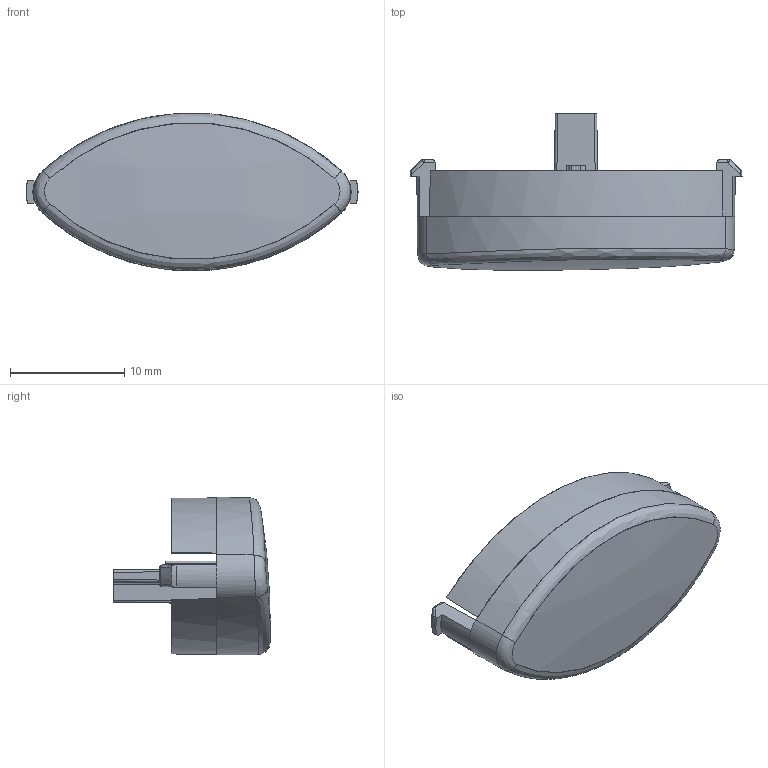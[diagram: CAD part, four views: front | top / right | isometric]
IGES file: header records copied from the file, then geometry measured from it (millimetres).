
Start section: Comment
Global section: file name: 148037196.igs; native system:  By UGS Corp.; preprocessor: XPlus GENERIC/IGES 3.0; author: Author; organization: Title; date: 20080207.150714; units: millimetre
Bounding box: 29 x 13.66 x 13.79 mm (x, y, z)
Surface area: 1572.5 mm2 (no closed solid volume)
Topology: 0 solids, 0 shells, 124 faces, 642 edges, 630 vertices
Faces by surface type: bspline 124
